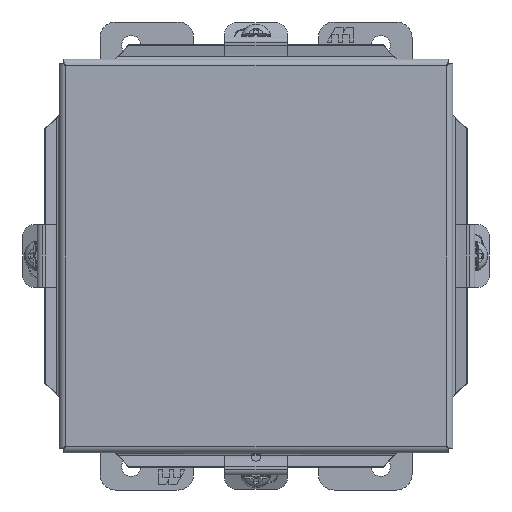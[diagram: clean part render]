
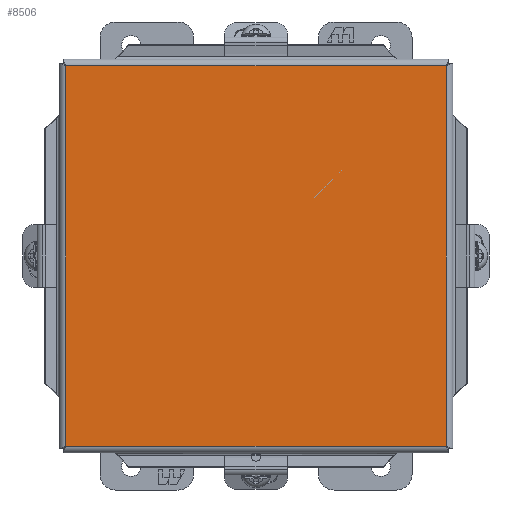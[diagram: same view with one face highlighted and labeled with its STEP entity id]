
A CAD part, front view. The second image highlights one B-rep face of the part: STEP entity #8506.
In plain terms, the highlighted planar face has unit normal (0, -1, 0).
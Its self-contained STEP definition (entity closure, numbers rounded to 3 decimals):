
#2394=ORIENTED_EDGE('',*,*,#4033,.T.);
#2395=ORIENTED_EDGE('',*,*,#4034,.T.);
#2396=ORIENTED_EDGE('',*,*,#4035,.T.);
#2397=ORIENTED_EDGE('',*,*,#4036,.T.);
#4033=EDGE_CURVE('',#4938,#4925,#5685,.T.);
#4034=EDGE_CURVE('',#4925,#4914,#5686,.T.);
#4035=EDGE_CURVE('',#4914,#4947,#5687,.T.);
#4036=EDGE_CURVE('',#4947,#4938,#5688,.T.);
#4914=VERTEX_POINT('',#15294);
#4925=VERTEX_POINT('',#15321);
#4938=VERTEX_POINT('',#15352);
#4947=VERTEX_POINT('',#15376);
#5685=LINE('',#15409,#6449);
#5686=LINE('',#15410,#6450);
#5687=LINE('',#15411,#6451);
#5688=LINE('',#15412,#6452);
#6449=VECTOR('',#10859,1000.);
#6450=VECTOR('',#10860,1000.);
#6451=VECTOR('',#10861,1000.);
#6452=VECTOR('',#10862,1000.);
#7095=EDGE_LOOP('',(#2394,#2395,#2396,#2397));
#7670=FACE_BOUND('',#7095,.T.);
#8069=PLANE('',#9181);
#8506=ADVANCED_FACE('',(#7670),#8069,.T.);
#9181=AXIS2_PLACEMENT_3D('',#15408,#10857,#10858);
#10857=DIRECTION('',(0.,-1.,0.));
#10858=DIRECTION('',(0.,0.,-1.));
#10859=DIRECTION('',(0.,0.,-1.));
#10860=DIRECTION('',(1.,0.,0.));
#10861=DIRECTION('',(0.,0.,1.));
#10862=DIRECTION('',(-1.,0.,0.));
#15294=CARTESIAN_POINT('',(77.419,0.,-77.419));
#15321=CARTESIAN_POINT('',(-77.419,0.,-77.419));
#15352=CARTESIAN_POINT('',(-77.419,0.,77.419));
#15376=CARTESIAN_POINT('',(77.419,0.,77.419));
#15408=CARTESIAN_POINT('',(-77.419,0.,-77.419));
#15409=CARTESIAN_POINT('',(-77.419,0.,77.419));
#15410=CARTESIAN_POINT('',(-77.419,0.,-77.419));
#15411=CARTESIAN_POINT('',(77.419,0.,-77.419));
#15412=CARTESIAN_POINT('',(77.419,0.,77.419));
